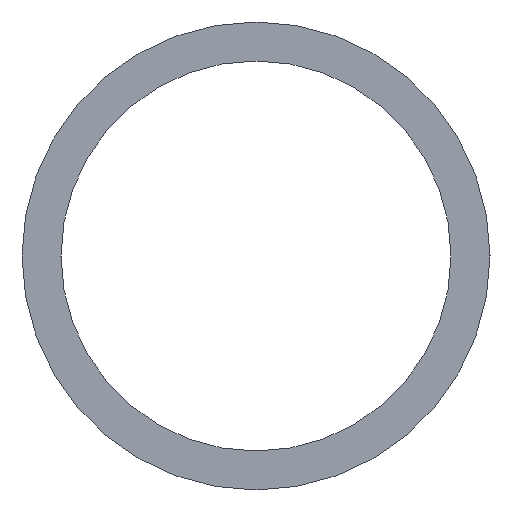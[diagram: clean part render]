
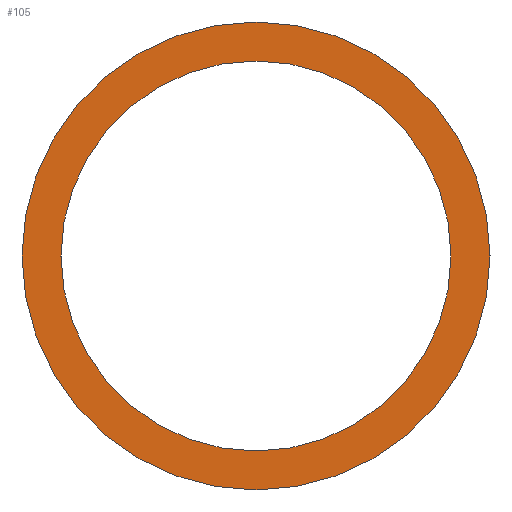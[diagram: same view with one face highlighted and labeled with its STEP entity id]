
A CAD part, left-side view. The second image highlights one B-rep face of the part: STEP entity #105.
In plain terms, the highlighted planar face has unit normal (-1, 0, 0).
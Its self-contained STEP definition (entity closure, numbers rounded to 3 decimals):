
#22 = VERTEX_POINT('',#23);
#23 = CARTESIAN_POINT('',(0.,0.,-12.)
  );
#32 = CYLINDRICAL_SURFACE('',#33,12.);
#33 = AXIS2_PLACEMENT_3D('',#34,#35,#36);
#34 = CARTESIAN_POINT('',(0.,0.,0.));
#35 = DIRECTION('',(1.,0.,0.));
#36 = DIRECTION('',(0.,0.,-1.));
#79 = EDGE_CURVE('',#22,#22,#80,.T.);
#80 = SURFACE_CURVE('',#81,(#86,#93),.PCURVE_S1.);
#81 = CIRCLE('',#82,12.);
#82 = AXIS2_PLACEMENT_3D('',#83,#84,#85);
#83 = CARTESIAN_POINT('',(0.,0.,0.));
#84 = DIRECTION('',(1.,0.,0.));
#85 = DIRECTION('',(0.,0.,-1.));
#86 = PCURVE('',#32,#87);
#87 = DEFINITIONAL_REPRESENTATION('',(#88),#92);
#88 = LINE('',#89,#90);
#89 = CARTESIAN_POINT('',(0.,0.));
#90 = VECTOR('',#91,1.);
#91 = DIRECTION('',(1.,0.));
#92 = ( GEOMETRIC_REPRESENTATION_CONTEXT(2) 
PARAMETRIC_REPRESENTATION_CONTEXT() REPRESENTATION_CONTEXT('2D SPACE',''
  ) );
#93 = PCURVE('',#94,#99);
#94 = PLANE('',#95);
#95 = AXIS2_PLACEMENT_3D('',#96,#97,#98);
#96 = CARTESIAN_POINT('',(0.,0.,0.));
#97 = DIRECTION('',(1.,0.,0.));
#98 = DIRECTION('',(0.,0.,-1.));
#99 = DEFINITIONAL_REPRESENTATION('',(#100),#104);
#100 = CIRCLE('',#101,12.);
#101 = AXIS2_PLACEMENT_2D('',#102,#103);
#102 = CARTESIAN_POINT('',(0.,0.));
#103 = DIRECTION('',(1.,0.));
#104 = ( GEOMETRIC_REPRESENTATION_CONTEXT(2) 
PARAMETRIC_REPRESENTATION_CONTEXT() REPRESENTATION_CONTEXT('2D SPACE',''
  ) );
#105 = ADVANCED_FACE('',(#106,#137),#94,.F.);
#106 = FACE_BOUND('',#107,.F.);
#107 = EDGE_LOOP('',(#108));
#108 = ORIENTED_EDGE('',*,*,#109,.F.);
#109 = EDGE_CURVE('',#110,#110,#112,.T.);
#110 = VERTEX_POINT('',#111);
#111 = CARTESIAN_POINT('',(0.,0.,-10.)
  );
#112 = SURFACE_CURVE('',#113,(#118,#125),.PCURVE_S1.);
#113 = CIRCLE('',#114,10.);
#114 = AXIS2_PLACEMENT_3D('',#115,#116,#117);
#115 = CARTESIAN_POINT('',(0.,0.,0.));
#116 = DIRECTION('',(1.,0.,0.));
#117 = DIRECTION('',(0.,0.,-1.));
#118 = PCURVE('',#94,#119);
#119 = DEFINITIONAL_REPRESENTATION('',(#120),#124);
#120 = CIRCLE('',#121,10.);
#121 = AXIS2_PLACEMENT_2D('',#122,#123);
#122 = CARTESIAN_POINT('',(0.,0.));
#123 = DIRECTION('',(1.,0.));
#124 = ( GEOMETRIC_REPRESENTATION_CONTEXT(2) 
PARAMETRIC_REPRESENTATION_CONTEXT() REPRESENTATION_CONTEXT('2D SPACE',''
  ) );
#125 = PCURVE('',#126,#131);
#126 = CYLINDRICAL_SURFACE('',#127,10.);
#127 = AXIS2_PLACEMENT_3D('',#128,#129,#130);
#128 = CARTESIAN_POINT('',(0.,0.,0.));
#129 = DIRECTION('',(1.,0.,0.));
#130 = DIRECTION('',(0.,0.,-1.));
#131 = DEFINITIONAL_REPRESENTATION('',(#132),#136);
#132 = LINE('',#133,#134);
#133 = CARTESIAN_POINT('',(0.,0.));
#134 = VECTOR('',#135,1.);
#135 = DIRECTION('',(1.,0.));
#136 = ( GEOMETRIC_REPRESENTATION_CONTEXT(2) 
PARAMETRIC_REPRESENTATION_CONTEXT() REPRESENTATION_CONTEXT('2D SPACE',''
  ) );
#137 = FACE_BOUND('',#138,.F.);
#138 = EDGE_LOOP('',(#139));
#139 = ORIENTED_EDGE('',*,*,#79,.T.);
